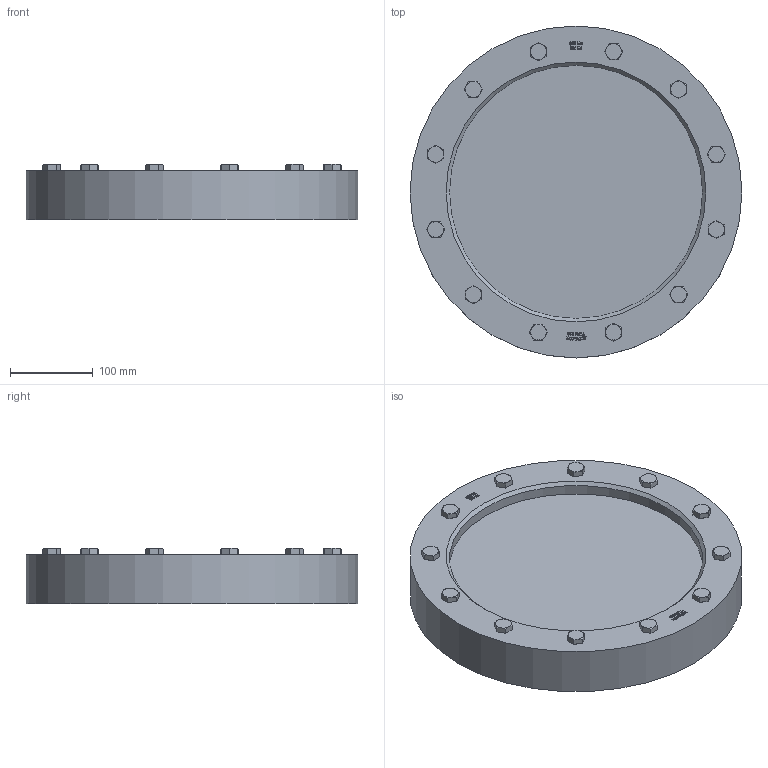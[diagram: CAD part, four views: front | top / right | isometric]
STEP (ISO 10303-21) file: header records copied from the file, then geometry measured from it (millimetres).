
FILE_DESCRIPTION(/* description */ (''),/* implementation_level */ '2;1');
FILE_NAME(/* name */ 'W:\Konstruktion_ACI\318\_STEP\ACI-318-300.stp',/* time_stamp */ '2022-03-02T18:04:38+01:00',/* author */ ('Travnicek'),/* organization */ (''),/* preprocessor_version */ 'ST-DEVELOPER v16.1',/* originating_system */ 'Autodesk Inventor 2016',/* authorisation */ '');
FILE_SCHEMA (('AUTOMOTIVE_DESIGN { 1 0 10303 214 3 1 1 }'));
Length unit declared in the file: centimetre
Products named in the file (1): ACI-318-300.stp
Bounding box: 400 x 400 x 66.5 mm (x, y, z)
Volume: 4837159.3 mm3; surface area: 359466.2 mm2
Topology: 1 solids, 1 shells, 596 faces, 1523 edges, 991 vertices
Faces by surface type: plane 320, bspline 187, cone 74, cylinder 15
Full cylindrical faces by diameter (mm): 17.2 x12, 305 x2, 400 x1
Entity records: 19170 total; most frequent: CARTESIAN_POINT 5811, ORIENTED_EDGE 3010, DIRECTION 1911, EDGE_CURVE 1505, VERTEX_POINT 990, LINE 883, VECTOR 883, EDGE_LOOP 675
